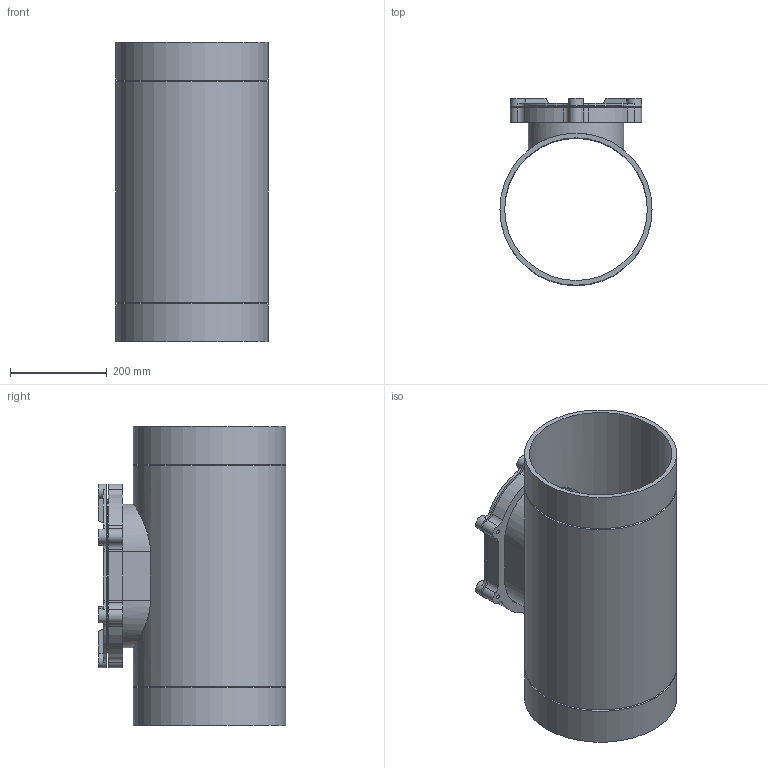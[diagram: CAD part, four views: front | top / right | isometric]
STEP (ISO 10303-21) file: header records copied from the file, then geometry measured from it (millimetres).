
FILE_DESCRIPTION(/* description */ (''),/* implementation_level */ '2;1');
FILE_NAME(/* name */ 'Z:\Geberit\Export\NewStep\372454.stp',/* time_stamp */ '2014-04-02T08:06:50+02:00',/* author */ ('Marco'),/* organization */ (''),/* preprocessor_version */ 'ST-DEVELOPER v15.2',/* originating_system */ 'Autodesk Inventor 2014',/* authorisation */ '');
FILE_SCHEMA (('AUTOMOTIVE_DESIGN { 1 0 10303 214 3 1 1 }'));
Length unit declared in the file: millimetre
Products named in the file (4): 853491; 853426; 853393; 372454
Bounding box: 315 x 387.5 x 620 mm (x, y, z)
Volume: 7332415.5 mm3; surface area: 1705607.1 mm2
Topology: 3 solids, 3 shells, 183 faces, 517 edges, 336 vertices
Faces by surface type: cylinder 87, plane 84, cone 8, bspline 4
Full cylindrical faces by diameter (mm): 8.376 x6, 12 x6, 30 x6, 295.4 x1, 315 x3
Entity records: 6327 total; most frequent: CARTESIAN_POINT 1453, DIRECTION 1031, ORIENTED_EDGE 984, EDGE_CURVE 485, AXIS2_PLACEMENT_3D 376, VERTEX_POINT 324, LINE 279, VECTOR 279
